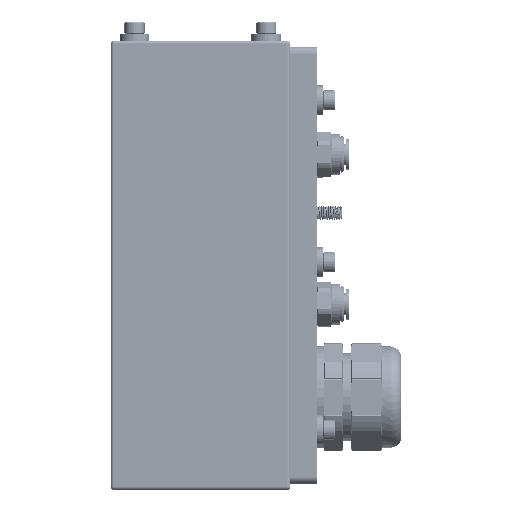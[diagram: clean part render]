
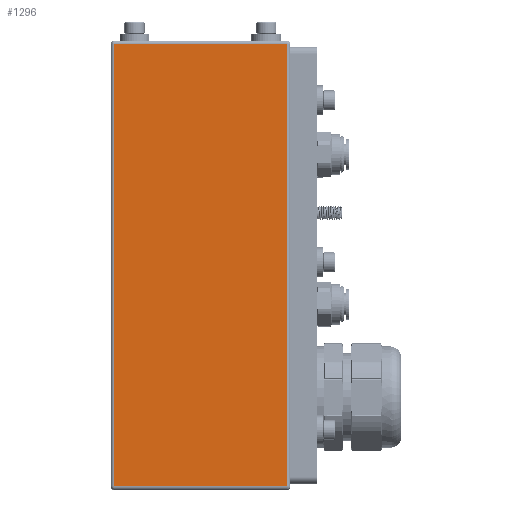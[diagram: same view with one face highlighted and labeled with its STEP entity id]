
A CAD part, left-side view. The second image highlights one B-rep face of the part: STEP entity #1296.
In plain terms, the highlighted planar face has unit normal (-1, 0, 0).
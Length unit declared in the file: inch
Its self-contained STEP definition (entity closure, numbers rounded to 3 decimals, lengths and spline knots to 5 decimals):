
#335 = AXIS2_PLACEMENT_3D ( 'NONE', #37774, #7089, #15685 ) ;
#645 = DIRECTION ( 'NONE',  ( 0., 1., 0. ) ) ;
#1296 = ADVANCED_FACE ( 'NONE', ( #2783 ), #55794, .F. ) ;
#2661 = CARTESIAN_POINT ( 'NONE',  ( -1.5, 2.94, -7.5 ) ) ;
#2783 = FACE_OUTER_BOUND ( 'NONE', #18403, .T. ) ;
#3258 = EDGE_CURVE ( 'NONE', #52232, #25479, #30026, .T. ) ;
#4398 = CARTESIAN_POINT ( 'NONE',  ( -1.5, 3., -0.06 ) ) ;
#5521 = LINE ( 'NONE', #4398, #40157 ) ;
#5554 = CARTESIAN_POINT ( 'NONE',  ( -1.5, 0.06, -0.06 ) ) ;
#7089 = DIRECTION ( 'NONE',  ( 1., 0., 0. ) ) ;
#12533 = CARTESIAN_POINT ( 'NONE',  ( -1.5, 3., -7.44 ) ) ;
#12593 = LINE ( 'NONE', #2661, #26897 ) ;
#14229 = VECTOR ( 'NONE', #17942, 39.37008 ) ;
#15685 = DIRECTION ( 'NONE',  ( 0., 0., -1. ) ) ;
#17942 = DIRECTION ( 'NONE',  ( 0., 0., 1. ) ) ;
#18403 = EDGE_LOOP ( 'NONE', ( #20075, #20788, #27064, #39904 ) ) ;
#18799 = VECTOR ( 'NONE', #47496, 39.37008 ) ;
#20075 = ORIENTED_EDGE ( 'NONE', *, *, #29865, .T. ) ;
#20120 = DIRECTION ( 'NONE',  ( 0., 0., -1. ) ) ;
#20788 = ORIENTED_EDGE ( 'NONE', *, *, #3258, .T. ) ;
#22123 = VERTEX_POINT ( 'NONE', #5554 ) ;
#22815 = LINE ( 'NONE', #48891, #14229 ) ;
#25479 = VERTEX_POINT ( 'NONE', #41410 ) ;
#26897 = VECTOR ( 'NONE', #20120, 39.37008 ) ;
#27064 = ORIENTED_EDGE ( 'NONE', *, *, #43962, .T. ) ;
#29865 = EDGE_CURVE ( 'NONE', #32734, #52232, #12593, .T. ) ;
#30026 = LINE ( 'NONE', #12533, #18799 ) ;
#32734 = VERTEX_POINT ( 'NONE', #39088 ) ;
#37774 = CARTESIAN_POINT ( 'NONE',  ( -1.5, 3., -7.5 ) ) ;
#38087 = CARTESIAN_POINT ( 'NONE',  ( -1.5, 2.94, -7.44 ) ) ;
#39088 = CARTESIAN_POINT ( 'NONE',  ( -1.5, 2.94, -0.06 ) ) ;
#39904 = ORIENTED_EDGE ( 'NONE', *, *, #49059, .T. ) ;
#40157 = VECTOR ( 'NONE', #645, 39.37008 ) ;
#41410 = CARTESIAN_POINT ( 'NONE',  ( -1.5, 0.06, -7.44 ) ) ;
#43962 = EDGE_CURVE ( 'NONE', #25479, #22123, #22815, .T. ) ;
#47496 = DIRECTION ( 'NONE',  ( 0., -1., 0. ) ) ;
#48891 = CARTESIAN_POINT ( 'NONE',  ( -1.5, 0.06, -7.5 ) ) ;
#49059 = EDGE_CURVE ( 'NONE', #22123, #32734, #5521, .T. ) ;
#52232 = VERTEX_POINT ( 'NONE', #38087 ) ;
#55794 = PLANE ( 'NONE',  #335 ) ;
